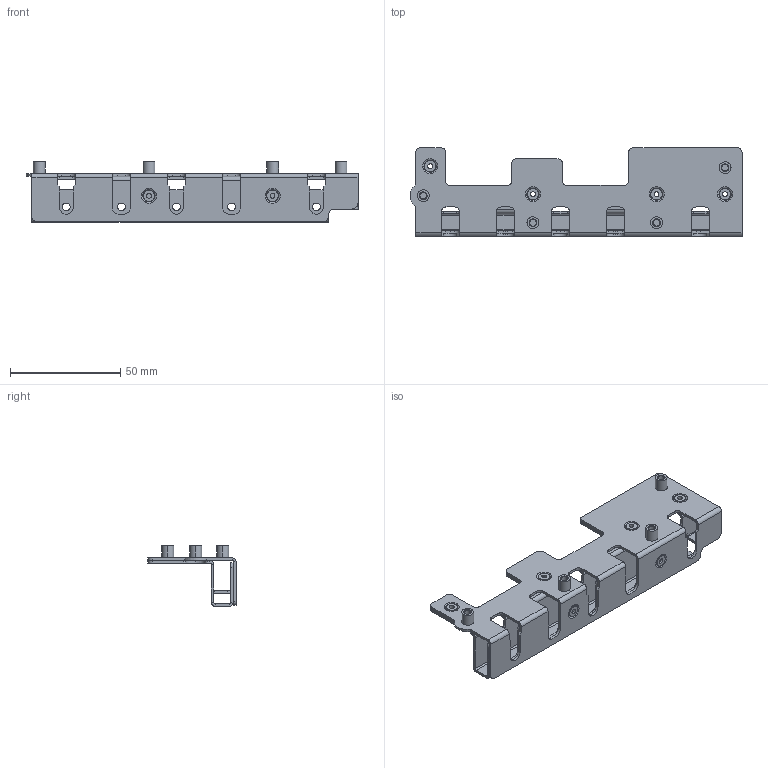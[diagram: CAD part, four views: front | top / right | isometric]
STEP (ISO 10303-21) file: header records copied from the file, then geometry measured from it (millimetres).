
FILE_DESCRIPTION((''),'2;1');
FILE_NAME('PSU_BD_SUPPORT_ASM_CSGR_01_ASM','2019-02-14T',('calvi'),(''),'CREO PARAMETRIC BY PTC INC, 2015480','CREO PARAMETRIC BY PTC INC, 2015480','');
FILE_SCHEMA(('CONFIG_CONTROL_DESIGN'));
Length unit declared in the file: millimetre
Products named in the file (13): MSBR-12; MSBR-11; MSBR-10; MSBR-9; MSBR-8; MSBR-7; MSBR-6; MSBR-5; MSBR-4; MSBR-3; MSBR-2; MSBR-1; PSU_BD_SUPPORT_ASM_CSGR_01_ASM
Assembly tree (12 placements, depth 2):
  PSU_BD_SUPPORT_ASM_CSGR_01_ASM
    MSBR-12
    MSBR-11
    MSBR-10
    MSBR-9
    MSBR-8
    MSBR-7
    MSBR-6
    MSBR-5
    MSBR-4
    MSBR-3
    MSBR-2
    MSBR-1
Bounding box: 150.68 x 40 x 27.5 mm (x, y, z)
Volume: 18279.4 mm3; surface area: 33395.9 mm2
Topology: 12 solids, 12 shells, 544 faces, 1460 edges, 930 vertices
Faces by surface type: plane 244, cylinder 198, cone 90, torus 12
Entity records: 21384 total; most frequent: DIRECTION 3176, CARTESIAN_POINT 2959, ORIENTED_EDGE 2920, EDGE_CURVE 1460, AXIS2_PLACEMENT_3D 1147, VERTEX_POINT 930, VECTOR 882, LINE 882
